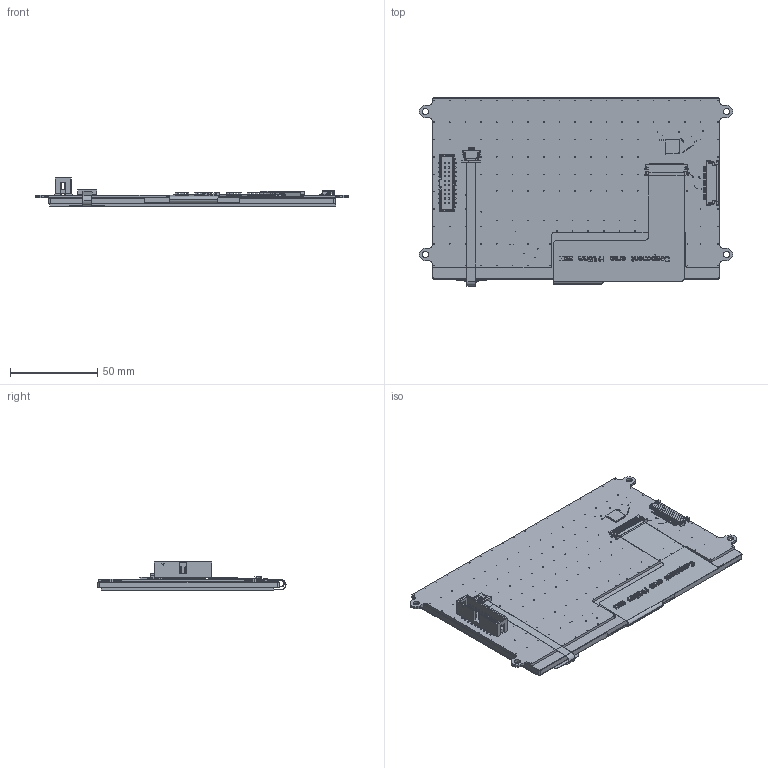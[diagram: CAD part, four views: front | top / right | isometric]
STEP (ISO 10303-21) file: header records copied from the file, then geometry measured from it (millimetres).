
FILE_DESCRIPTION (( 'STEP AP214' ), '1' );
FILE_NAME ('NHD-7.0-800480FT-EVE2-T.STEP', '2017-11-16T20:25:57', ( '' ), ( '' ), 'SwSTEP 2.0', 'SolidWorks 2017', '' );
FILE_SCHEMA (( 'AUTOMOTIVE_DESIGN' ));
Length unit declared in the file: millimetre
Products named in the file (9): NHD-7.0-800480EF-ASXN#-T; NHD-7.0R-FT812 Controller Board; QFN50P800X800X90-57N; MOLEX4; MOLEX40; MOLEX20TC; IDC; NHD_7_0R__11112016_01-53-06; NHD-7.0-800480FT-EVE2-T
Assembly tree (8 placements, depth 3):
  NHD-7.0-800480FT-EVE2-T
    NHD-7.0R-FT812 Controller Board
      NHD_7_0R__11112016_01-53-06
      IDC
      MOLEX20TC
      MOLEX40
      MOLEX4
      QFN50P800X800X90-57N
    NHD-7.0-800480EF-ASXN#-T
Bounding box: 180.1 x 108.02 x 16.1 mm (x, y, z)
Volume: 25213.4 mm3; surface area: 128612 mm2
Topology: 9 solids, 20 shells, 5323 faces, 16502 edges, 10825 vertices
Faces by surface type: plane 4270, cylinder 948, cone 101, bspline 4
Entity records: 204908 total; most frequent: CARTESIAN_POINT 38956, ORIENTED_EDGE 32001, DIRECTION 27153, EDGE_CURVE 16458, LINE 12587, VECTOR 12587, VERTEX_POINT 10825, AXIS2_PLACEMENT_3D 7283
